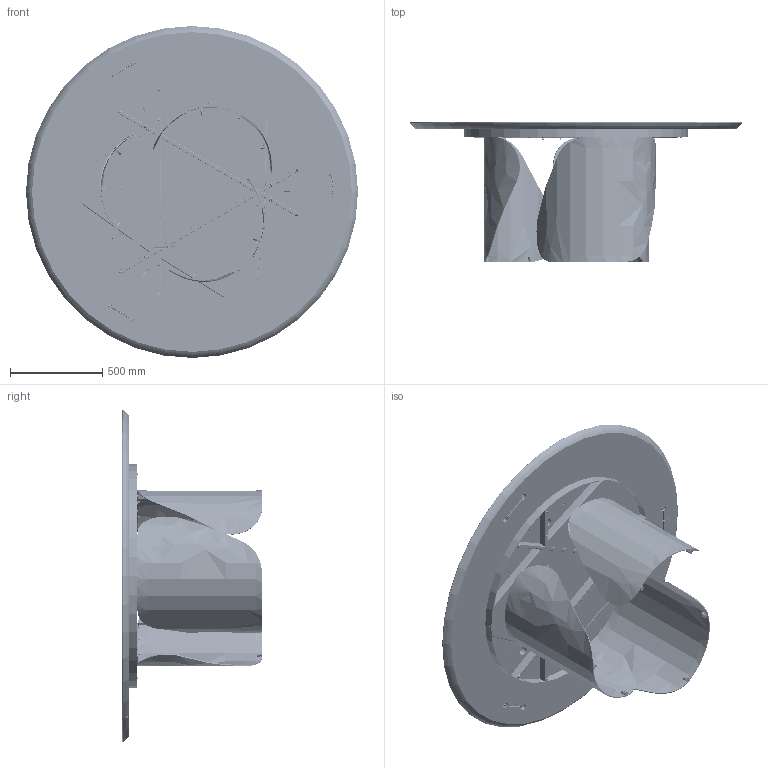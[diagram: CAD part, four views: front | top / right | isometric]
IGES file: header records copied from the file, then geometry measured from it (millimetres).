
Start section: SolidWorks IGES file using analytic representation for surfaces
Global section: file name: Y:\eforma\TECNICO\SOLIDWORKS\E-FORMA\1-TAVOLI\ONDA\08 modelli 3D web\ON16L_Onda_d.180_WoodCeramic.IGS; native system: SolidWorks 2022; preprocessor: SolidWorks 2022; author: eforma.tech; date: 240801.135430; units: millimetre
Bounding box: 1800.23 x 760 x 1799.96 mm (x, y, z)
Volume: 97508863 mm3; surface area: 12901692.8 mm2
Topology: 99 solids, 99 shells, 5082 faces, 13855 edges, 8916 vertices
Faces by surface type: revolution 3499, plane 1292, bspline 291
